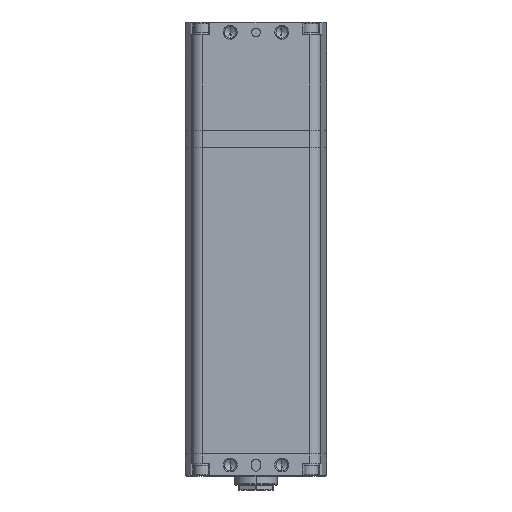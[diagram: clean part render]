
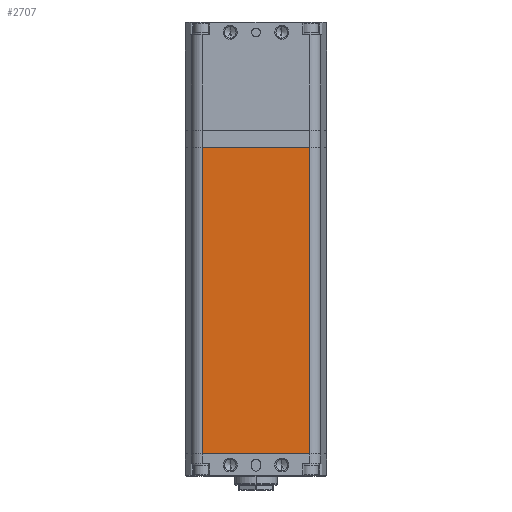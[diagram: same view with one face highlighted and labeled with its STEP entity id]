
A CAD part, front view. The second image highlights one B-rep face of the part: STEP entity #2707.
In plain terms, the highlighted planar face has unit normal (0, -1, 0).
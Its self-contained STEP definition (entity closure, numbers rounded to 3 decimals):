
#497 = DIRECTION ( 'NONE',  ( 1., 0., 0. ) ) ;
#1570 = CARTESIAN_POINT ( 'NONE',  ( -41., -41., -1073. ) ) ;
#2153 = VERTEX_POINT ( 'NONE', #16517 ) ;
#2707 = ADVANCED_FACE ( 'NONE', ( #4856 ), #6893, .T. ) ;
#2864 = CARTESIAN_POINT ( 'NONE',  ( -31.138, -41., -73. ) ) ;
#2901 = LINE ( 'NONE', #6291, #22305 ) ;
#3151 = ORIENTED_EDGE ( 'NONE', *, *, #13843, .T. ) ;
#3399 = AXIS2_PLACEMENT_3D ( 'NONE', #1570, #12210, #7116 ) ;
#4050 = ORIENTED_EDGE ( 'NONE', *, *, #14310, .T. ) ;
#4598 = DIRECTION ( 'NONE',  ( 0., 0., 1. ) ) ;
#4702 = DIRECTION ( 'NONE',  ( 1., 0., 0. ) ) ;
#4736 = EDGE_LOOP ( 'NONE', ( #3151, #4050, #9671, #20475 ) ) ;
#4856 = FACE_OUTER_BOUND ( 'NONE', #4736, .T. ) ;
#6291 = CARTESIAN_POINT ( 'NONE',  ( 31.138, -41., -1073. ) ) ;
#6546 = VECTOR ( 'NONE', #20176, 1000. ) ;
#6893 = PLANE ( 'NONE',  #3399 ) ;
#7116 = DIRECTION ( 'NONE',  ( 0., 0., -1. ) ) ;
#7278 = CARTESIAN_POINT ( 'NONE',  ( -41., -41., -251. ) ) ;
#9671 = ORIENTED_EDGE ( 'NONE', *, *, #11376, .T. ) ;
#9786 = LINE ( 'NONE', #14972, #9842 ) ;
#9830 = CARTESIAN_POINT ( 'NONE',  ( 31.138, -41., -251. ) ) ;
#9842 = VECTOR ( 'NONE', #4702, 1000. ) ;
#10560 = LINE ( 'NONE', #7278, #15569 ) ;
#11376 = EDGE_CURVE ( 'NONE', #13794, #2153, #2901, .T. ) ;
#11475 = CARTESIAN_POINT ( 'NONE',  ( -31.138, -41., -251. ) ) ;
#12210 = DIRECTION ( 'NONE',  ( 0., -1., 0. ) ) ;
#13794 = VERTEX_POINT ( 'NONE', #9830 ) ;
#13843 = EDGE_CURVE ( 'NONE', #14423, #17003, #15344, .T. ) ;
#14310 = EDGE_CURVE ( 'NONE', #17003, #13794, #10560, .T. ) ;
#14423 = VERTEX_POINT ( 'NONE', #2864 ) ;
#14972 = CARTESIAN_POINT ( 'NONE',  ( -41., -41., -73. ) ) ;
#15344 = LINE ( 'NONE', #20383, #6546 ) ;
#15569 = VECTOR ( 'NONE', #497, 1000. ) ;
#15927 = EDGE_CURVE ( 'NONE', #14423, #2153, #9786, .T. ) ;
#16517 = CARTESIAN_POINT ( 'NONE',  ( 31.138, -41., -73. ) ) ;
#17003 = VERTEX_POINT ( 'NONE', #11475 ) ;
#20176 = DIRECTION ( 'NONE',  ( 0., 0., -1. ) ) ;
#20383 = CARTESIAN_POINT ( 'NONE',  ( -31.138, -41., -1073. ) ) ;
#20475 = ORIENTED_EDGE ( 'NONE', *, *, #15927, .F. ) ;
#22305 = VECTOR ( 'NONE', #4598, 1000. ) ;
